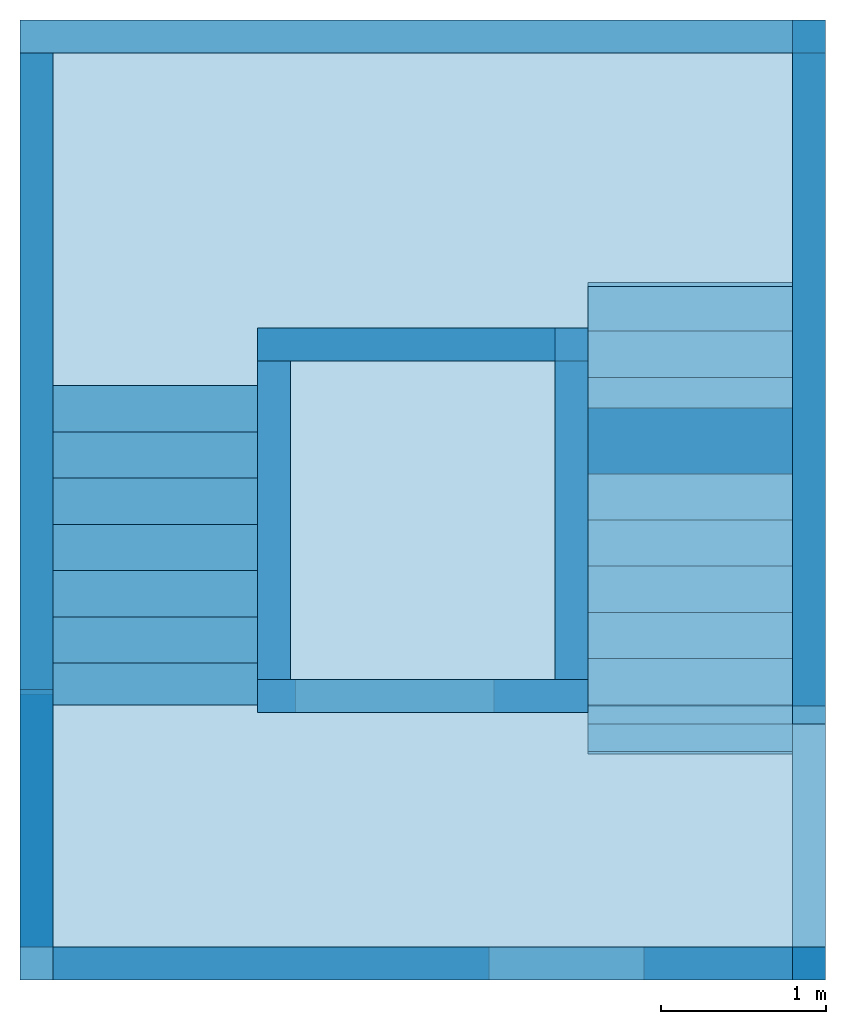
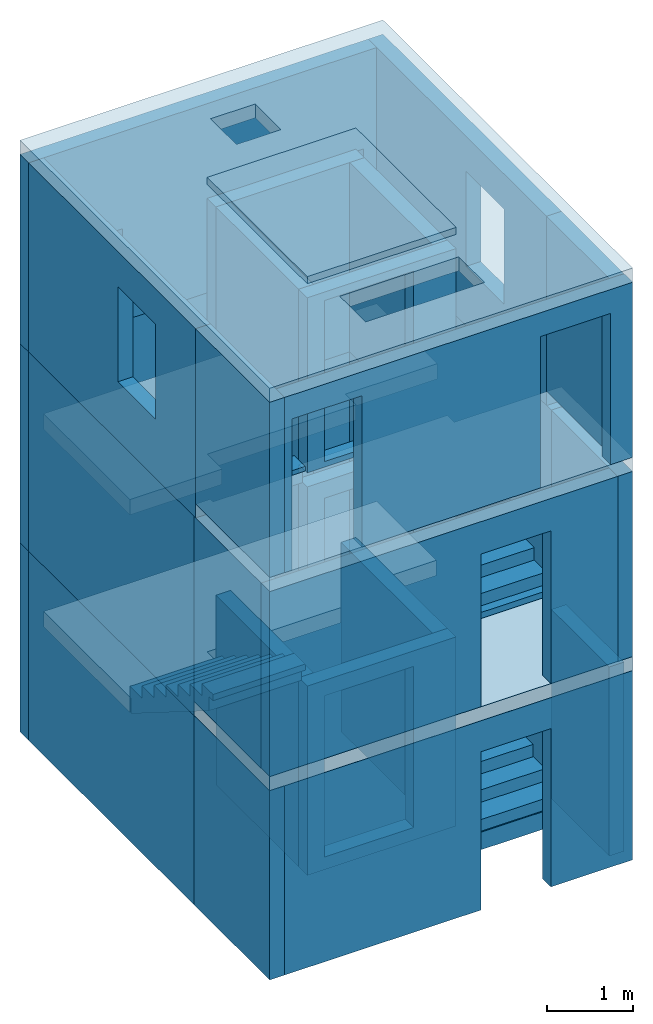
# One storey: 34 walls, 6 slabs, 16 openings.
"""IFC2X3 building model written with IfcOpenShell, lengths in metres."""

import ifcopenshell
import ifcopenshell.guid

model = None  # the IFC model being written
_history = None  # IfcOwnerHistory: only IFC2X3 demands one
_inside = {}  # id of a spatial element -> (the spatial element, [elements in it])
_under = {}  # id of a project, library or spatial element -> (it, [spatial elements below it])
_declared = {}  # id of a project -> (the project, [libraries it declares])
_typed = {}  # id of a type object -> (the type object, [elements of that type])
_made_of = {}  # id of a material, layer set ... -> (it, [elements and type objects made of it])


def new_model(schema):
    """Start an empty IFC model of exactly this schema.

    Asked for "IFC4X3", IfcOpenShell would pick the latest addendum, in which some entities
    have other attributes; the version numbers below select the first issue.
    IFC2X3 requires an IfcOwnerHistory on every rooted entity: one is made here for all.
    """
    global model, _history
    if schema == "IFC4X3":
        model = ifcopenshell.file(schema_version=(4, 3, 0, 0))
    else:
        model = ifcopenshell.file(schema=schema)
    _inside.clear()
    _under.clear()
    _declared.clear()
    _typed.clear()
    _made_of.clear()
    _history = None
    if model.schema == "IFC2X3":
        org = make("IfcOrganization", Name="unknown")
        user = make(
            "IfcPersonAndOrganization",
            ThePerson=make("IfcPerson", FamilyName="unknown"),
            TheOrganization=org,
        )
        app = make(
            "IfcApplication",
            ApplicationDeveloper=org,
            Version="unknown",
            ApplicationFullName="unknown",
            ApplicationIdentifier="unknown",
        )
        _history = make(
            "IfcOwnerHistory",
            OwningUser=user,
            OwningApplication=app,
            ChangeAction="ADDED",
            CreationDate=0,
        )
    return model


def make(cls, **values):
    """One entity of the class cls with the attributes given. An attribute that is None is left unset."""
    return model.create_entity(
        cls, **{name: value for name, value in values.items() if value is not None}
    )


def entity(cls, *values):
    """Any entity or typed value of the class cls, its attributes in the order of the schema. None: left unset."""
    e = model.create_entity(cls)
    for i, value in enumerate(values):
        if value is not None:
            e[i] = value
    return e


def rooted(cls, **values):
    """An entity with a GlobalId (a new one), such as an element, a storey or a relation."""
    return make(cls, GlobalId=ifcopenshell.guid.new(), OwnerHistory=_history, **values)


def si_unit(unit_type, name, prefix=None):
    """IfcSIUnit, for example si_unit("LENGTHUNIT", "METRE", prefix="MILLI")."""
    return make("IfcSIUnit", UnitType=unit_type, Prefix=prefix, Name=name)


def converted_unit(unit_type, name, factor, base, dimensions=None, offset=None):
    """IfcConversionBasedUnit, such as the inch: factor (a typed value) times the base unit."""
    return make(
        "IfcConversionBasedUnit"
        if offset is None
        else "IfcConversionBasedUnitWithOffset",
        ConversionOffset=offset,
        Dimensions=None
        if dimensions is None
        else entity("IfcDimensionalExponents", *dimensions),
        UnitType=unit_type,
        Name=name,
        ConversionFactor=make(
            "IfcMeasureWithUnit", ValueComponent=factor, UnitComponent=base
        ),
    )


def derived_unit(unit_type, elements):
    """IfcDerivedUnit: a product of units, each with its exponent."""
    return make(
        "IfcDerivedUnit",
        Elements=[
            make("IfcDerivedUnitElement", Unit=unit, Exponent=power)
            for unit, power in elements
        ],
        UnitType=unit_type,
    )


def assignment(units):
    """IfcUnitAssignment: the units of a project."""
    return None if units is None else make("IfcUnitAssignment", Units=units)


def point(xyz):
    """IfcCartesianPoint."""
    return None if xyz is None else make("IfcCartesianPoint", Coordinates=xyz)


def direction(xyz):
    """IfcDirection."""
    return None if xyz is None else make("IfcDirection", DirectionRatios=xyz)


def frame(location, z_axis=None, x_axis=None):
    """IfcAxis2Placement3D, a coordinate frame: its origin and axes. An axis left out is left unset."""
    return make(
        "IfcAxis2Placement3D",
        Location=point(location),
        Axis=direction(z_axis),
        RefDirection=direction(x_axis),
    )


def frame_2d(location, x_axis=None):
    """IfcAxis2Placement2D, a coordinate frame in the plane: its origin and x axis."""
    return make(
        "IfcAxis2Placement2D", Location=point(location), RefDirection=direction(x_axis)
    )


def origin():
    """The frame at (0, 0, 0) with its axes left unset."""
    return frame((0.0, 0.0, 0.0))


def origin_with_axes():
    """The frame at (0, 0, 0) with the z axis (0, 0, 1) and the x axis (1, 0, 0) written out."""
    return frame((0.0, 0.0, 0.0), z_axis=(0.0, 0.0, 1.0), x_axis=(1.0, 0.0, 0.0))


def place(relative_to, where):
    """IfcLocalPlacement: puts the frame where relative to a parent placement (None: the world)."""
    return make(
        "IfcLocalPlacement", PlacementRelTo=relative_to, RelativePlacement=where
    )


def context(
    kind, dimensions, precision=None, world=None, true_north=None, identifier=None
):
    """IfcGeometricRepresentationContext, for example the 3D "Model" context."""
    return make(
        "IfcGeometricRepresentationContext",
        ContextIdentifier=identifier,
        ContextType=kind,
        CoordinateSpaceDimension=dimensions,
        Precision=precision,
        WorldCoordinateSystem=world,
        TrueNorth=true_north,
    )


def subcontext(parent, identifier, kind, view, scale=None):
    """IfcGeometricRepresentationSubContext, for example "Body" below "Model"."""
    return make(
        "IfcGeometricRepresentationSubContext",
        ContextIdentifier=identifier,
        ContextType=kind,
        ParentContext=parent,
        TargetScale=scale,
        TargetView=view,
    )


def project(units=None, contexts=None):
    """IfcProject with its units and contexts."""
    return rooted(
        "IfcProject",
        Name="project",
        RepresentationContexts=contexts,
        UnitsInContext=assignment(units),
    )


def spatial(cls, under=None, at=None, **own):
    """A site, building, storey or space (cls), placed at a placement, below another one or the project."""
    s = rooted(cls, ObjectPlacement=at, **own)
    if under is not None:
        _under.setdefault(under.id(), (under, []))[1].append(s)
    return s


def polyline(points):
    """IfcPolyline through the points."""
    return make("IfcPolyline", Points=[point(p) for p in points])


def profile(cls, at=None, kind="AREA", **sizes):
    """A parametric profile (cls). Its sizes go by their IFC names, for example OverallWidth=200.0."""
    return make(cls, ProfileType=kind, Position=at, **sizes)


def rectangle(**sizes):
    """IfcRectangleProfileDef."""
    return profile("IfcRectangleProfileDef", **sizes)


def outline(outer, holes=None, kind="AREA"):
    """IfcArbitraryClosedProfileDef: a profile drawn as a closed curve; with holes, ...WithVoids."""
    if holes is None:
        return make("IfcArbitraryClosedProfileDef", ProfileType=kind, OuterCurve=outer)
    return make(
        "IfcArbitraryProfileDefWithVoids",
        ProfileType=kind,
        OuterCurve=outer,
        InnerCurves=holes,
    )


def extrude(swept, where, along, depth):
    """IfcExtrudedAreaSolid: the profile swept, set in the frame where, extruded along a direction by depth."""
    return make(
        "IfcExtrudedAreaSolid",
        SweptArea=swept,
        Position=where,
        ExtrudedDirection=direction(along),
        Depth=depth,
    )


def shape(context_of_items, identifier, shape_type, items):
    """IfcShapeRepresentation: the items that make up one representation, for example the "Body"."""
    return make(
        "IfcShapeRepresentation",
        ContextOfItems=context_of_items,
        RepresentationIdentifier=identifier,
        RepresentationType=shape_type,
        Items=items,
    )


def material(Name=None, Category=None):
    """IfcMaterial."""
    return make("IfcMaterial", Name=Name, Category=Category)


def layer(
    of_material, thickness, ventilated=None, Name=None, Category=None, Priority=None
):
    """IfcMaterialLayer: one layer of a wall or slab, of a material (None: an air gap)."""
    return make(
        "IfcMaterialLayer",
        Material=of_material,
        LayerThickness=thickness,
        IsVentilated=ventilated,
        Name=Name,
        Category=Category,
        Priority=Priority,
    )


def layer_set(layers, Name=None):
    """IfcMaterialLayerSet."""
    return make("IfcMaterialLayerSet", MaterialLayers=layers, LayerSetName=Name)


def layer_usage(for_layer_set, set_direction, sense, offset, extent=None):
    """IfcMaterialLayerSetUsage: how a layer set lies in its element."""
    return make(
        "IfcMaterialLayerSetUsage",
        ForLayerSet=for_layer_set,
        LayerSetDirection=set_direction,
        DirectionSense=sense,
        OffsetFromReferenceLine=offset,
        ReferenceExtent=extent,
    )


def made_of(thing, what):
    """Note that an element or type object is made of a material, layer set ...; save() writes the relation."""
    if what is not None:
        _made_of.setdefault(what.id(), (what, []))[1].append(thing)
    return thing


def element(
    cls,
    number,
    at=None,
    inside=None,
    cuts=None,
    type_object=None,
    material=None,
    context=None,
    identifier="Body",
    shape_type=None,
    held_by="IfcProductDefinitionShape",
    body=None,
    shapes=None,
    **own,
):
    """One element of the class cls, such as IfcWall. Its Tag is "e" and its number.

    at: its placement. inside: the storey or other place that contains it. cuts: it is an
    opening in that element (IfcRelVoidsElement). A single representation is given by context,
    identifier, shape_type and body (its items); several are given by shapes. held_by: the class
    of the entity that holds the representations. save() writes the other relations.
    """
    e = rooted(cls, Tag="e%d" % number, ObjectPlacement=at, **own)
    if body is not None:
        shapes = [shape(context, identifier, shape_type, body)]
    if shapes is not None:
        e.Representation = make(held_by, Representations=shapes)
    if inside is not None:
        _inside.setdefault(inside.id(), (inside, []))[1].append(e)
    if cuts is not None:
        rooted(
            "IfcRelVoidsElement", RelatingBuildingElement=cuts, RelatedOpeningElement=e
        )
    if type_object is not None:
        _typed.setdefault(type_object.id(), (type_object, []))[1].append(e)
    return made_of(e, material)


def aggregate(whole, parts):
    """IfcRelAggregates: a whole, such as a stair, and the parts it consists of."""
    return rooted("IfcRelAggregates", RelatingObject=whole, RelatedObjects=parts)


def save(model, path):
    """Write the relations noted so far, then the file.

    IfcRelAggregates (storeys below a building ...), IfcRelContainedInSpatialStructure (elements
    in a storey), IfcRelDefinesByType, IfcRelAssociatesMaterial and IfcRelDeclares: one each for
    every whole, place, type object, material and project.
    """
    for whole, parts in _under.values():
        aggregate(whole, parts)
    for where, things in _inside.values():
        rooted(
            "IfcRelContainedInSpatialStructure",
            RelatedElements=things,
            RelatingStructure=where,
        )
    for kind, things in _typed.values():
        rooted("IfcRelDefinesByType", RelatedObjects=things, RelatingType=kind)
    for what, things in _made_of.values():
        rooted("IfcRelAssociatesMaterial", RelatedObjects=things, RelatingMaterial=what)
    for by, libraries in _declared.values():
        rooted("IfcRelDeclares", RelatingContext=by, RelatedDefinitions=libraries)
    model.write(path)


model = new_model("IFC2X3")

# Units and contexts
model_context = context("Model", 3, precision=1e-05, world=origin(), true_north=direction((0.772621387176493, -0.634867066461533)))
body_context = subcontext(model_context, "Body", "Model", "MODEL_VIEW")
ifc_project = project(units=[si_unit("LENGTHUNIT", "METRE"), si_unit("AREAUNIT", "SQUARE_METRE"), si_unit("VOLUMEUNIT", "CUBIC_METRE"), si_unit("MASSUNIT", "GRAM", prefix="KILO"), converted_unit("PLANEANGLEUNIT", "DEGREE", entity("IfcPlaneAngleMeasure", 0.0174532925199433), si_unit("PLANEANGLEUNIT", "RADIAN"), dimensions=[0, 0, 0, 0, 0, 0, 0]), derived_unit("THERMALTRANSMITTANCEUNIT", [(si_unit("POWERUNIT", "WATT"), 1), (si_unit("THERMODYNAMICTEMPERATUREUNIT", "KELVIN"), -1), (si_unit("LENGTHUNIT", "METRE"), -2)]), derived_unit("VOLUMETRICFLOWRATEUNIT", [(si_unit("LENGTHUNIT", "METRE"), 3), (converted_unit("TIMEUNIT", "hour", entity("IfcTimeMeasure", 3600.0), si_unit("TIMEUNIT", "SECOND"), dimensions=[0, 0, 1, 0, 0, 0, 0]), -1), (si_unit("LENGTHUNIT", "METRE"), -1)])], contexts=[model_context])

# Site, building, storey
site_placement = place(None, origin())
site = spatial("IfcSite", under=ifc_project, at=site_placement, Name="Überbauung", CompositionType="ELEMENT")
building_placement = place(site_placement, origin())
building = spatial("IfcBuilding", under=site, at=building_placement, Name="F", CompositionType="ELEMENT")
storey_placement = place(building_placement, origin())
storey = spatial("IfcBuildingStorey", under=building, at=storey_placement, Name="Fundation & Aushub", CompositionType="ELEMENT", Elevation=0.0)

# Slabs
ifc_material_1 = material(Name="Béton")
slab_1_placement = place(storey_placement, frame((11.4517697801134, 7.69350369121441, 8.14)))
element("IfcSlab", 1, at=slab_1_placement, inside=storey, material=ifc_material_1, PredefinedType="FLOOR", context=body_context, shape_type="SweptSolid", body=[
    extrude(rectangle(XDim=2.33, YDim=2.0, at=frame_2d((1.0, -1.165), x_axis=(0.0, -1.0))), frame((0.0, 2.33, 0.0), z_axis=(0.0, 0.0, 1.0), x_axis=(1.0, 0.0, 0.0)), (0.0, 0.0, 1.0), 0.199999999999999),
])
ifc_material_2 = material(Name="Béton")
slab_2_placement = place(storey_placement, frame((10.0117697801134, 6.07350369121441, 8.04)))
element("IfcSlab", 2, at=slab_2_placement, inside=storey, material=ifc_material_2, PredefinedType="FLOOR", context=body_context, shape_type="SweptSolid", body=[
    extrude(outline(polyline([(2.44, 2.96875), (-2.44, 2.96875), (-2.44, -2.84625), (2.44, -2.84625), (2.44, 2.96875)]), holes=[polyline([(-1.0, 1.10375), (0.999999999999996, 1.10375), (0.999999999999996, -1.22625), (-1.0, -1.22625), (-1.0, 1.10375)]), polyline([(0.799999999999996, -2.23625), (-0.800000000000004, -2.23625), (-0.800000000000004, -1.63625), (0.799999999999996, -1.63625), (0.799999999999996, -2.23625)]), polyline([(-0.300000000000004, 1.63625), (-0.300000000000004, 2.23625), (0.299999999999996, 2.23625), (0.299999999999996, 1.63625), (-0.300000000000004, 1.63625)])]), frame((2.44, 2.84625, 0.0), z_axis=(0.0, 0.0, 1.0), x_axis=(1.0, 0.0, 0.0)), (0.0, 0.0, 1.0), 0.200000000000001),
    extrude(outline(polyline([(1.0, 1.165), (-0.999999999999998, 1.165), (-0.999999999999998, -1.165), (1.0, -1.165), (1.0, 1.165)]), holes=[polyline([(0.800000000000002, -0.965000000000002), (-0.799999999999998, -0.965000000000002), (-0.799999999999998, 0.964999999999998), (0.800000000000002, 0.964999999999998), (0.800000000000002, -0.965000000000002)])]), frame((2.44, 2.785, 0.0), z_axis=(0.0, 0.0, 1.0), x_axis=(1.0, 0.0, 0.0)), (0.0, 0.0, 1.0), 0.100000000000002),
])
ifc_material_3 = material(Name="Béton")
slab_3_placement = place(storey_placement, frame((10.2117697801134, 9.67350369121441, 1.375)))
element("IfcSlab", 3, at=slab_3_placement, inside=storey, material=ifc_material_3, PredefinedType="FLOOR", context=body_context, shape_type="SweptSolid", body=[
    extrude(outline(polyline([(-0.999999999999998, -0.397172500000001), (1.0, -0.397172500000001), (1.0, -0.1234825), (2.24, -0.1234825), (2.24, 1.2678275), (-2.24, 1.2678275), (-2.24, -0.747172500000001), (-0.999999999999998, -0.747172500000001), (-0.999999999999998, -0.397172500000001)])), frame((2.24, 0.747172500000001, 0.0), z_axis=(0.0, 0.0, 1.0), x_axis=(1.0, 0.0, 0.0)), (0.0, 0.0, 1.0), 0.22),
])
ifc_material_4 = material(Name="Béton")
slab_4_placement = place(storey_placement, frame((10.2117697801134, 9.67350369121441, 4.185)))
element("IfcSlab", 4, at=slab_4_placement, inside=storey, material=ifc_material_4, PredefinedType="FLOOR", context=body_context, shape_type="SweptSolid", body=[
    extrude(outline(polyline([(-0.999999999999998, -0.39125), (1.0, -0.39125), (1.0, -0.14125), (2.24, -0.14125), (2.24, 1.27375), (-2.24, 1.27375), (-2.24, -0.74125), (-0.999999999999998, -0.74125), (-0.999999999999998, -0.39125)])), frame((2.24, 0.74125, 0.0), z_axis=(0.0, 0.0, 1.0), x_axis=(1.0, 0.0, 0.0)), (0.0, 0.0, 1.0), 0.22),
])
ifc_material_5 = material(Name="Béton")
slab_5_placement = place(storey_placement, frame((10.0117697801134, 6.07350369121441, 5.35)))
element("IfcSlab", 5, at=slab_5_placement, inside=storey, material=ifc_material_5, PredefinedType="FLOOR", context=body_context, shape_type="SweptSolid", body=[
    extrude(outline(polyline([(-1.792, 0.352231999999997), (-1.992, 0.352231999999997), (-1.992, -1.374308), (2.888, -1.374308), (2.888, 0.285691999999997), (1.448, 0.285691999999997), (1.448, 0.445691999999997), (-0.551999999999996, 0.445691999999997), (-0.551999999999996, 0.290691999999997), (-1.792, 0.290691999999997), (-1.792, 0.352231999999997)])), frame((1.992, 1.374308, 0.0), z_axis=(0.0, 0.0, 1.0), x_axis=(1.0, 0.0, 0.0)), (0.0, 0.0, 1.0), 0.2),
])
ifc_material_6 = material(Name="Béton")
slab_6_placement = place(storey_placement, frame((10.0117697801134, 6.07350369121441, 2.52)))
element("IfcSlab", 6, at=slab_6_placement, inside=storey, material=ifc_material_6, PredefinedType="FLOOR", context=body_context, shape_type="SweptSolid", body=[
    extrude(outline(polyline([(1.448, 0.301330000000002), (-0.551999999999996, 0.301330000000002), (-0.551999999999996, 0.346330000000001), (-1.792, 0.346330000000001), (-1.792, 0.439680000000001), (-1.992, 0.439680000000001), (-1.992, -1.31867), (2.888, -1.31867), (2.888, 0.231330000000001), (1.448, 0.231330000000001), (1.448, 0.301330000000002)])), frame((1.992, 1.31867, 0.0), z_axis=(0.0, 0.0, 1.0), x_axis=(1.0, 0.0, 0.0)), (0.0, 0.0, 1.0), 0.2),
])

# Walls
ifc_material_7 = material(Name="Béton")
ifc_layer_1 = layer(ifc_material_7, 0.2)
ifc_layer_set_1 = layer_set([ifc_layer_1])
ifc_layer_usage_1 = layer_usage(ifc_layer_set_1, "AXIS2", "POSITIVE", 0.0)
wall_1_placement = place(storey_placement, frame((10.0117697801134, 7.83185369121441, -0.17), z_axis=(0.0, 0.0, 1.0), x_axis=(0.0, -1.0, 0.0)))
element("IfcWallStandardCase", 7, at=wall_1_placement, inside=storey, material=ifc_layer_usage_1, context=body_context, shape_type="SweptSolid", body=[
    extrude(rectangle(XDim=1.75835, YDim=0.2, at=frame_2d((0.879175, 0.1), x_axis=(1.0, 0.0))), origin_with_axes(), (0.0, 0.0, 1.0), 2.69),
])
ifc_material_8 = material(Name="Béton")
ifc_layer_2 = layer(ifc_material_8, 0.2)
ifc_layer_set_2 = layer_set([ifc_layer_2])
ifc_layer_usage_2 = layer_usage(ifc_layer_set_2, "AXIS2", "POSITIVE", 0.0)
wall_2_placement = place(storey_placement, frame((10.0117697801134, 11.6885036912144, -0.17), z_axis=(0.0, 0.0, 1.0), x_axis=(0.0, -1.0, 0.0)))
element("IfcWallStandardCase", 8, at=wall_2_placement, inside=storey, material=ifc_layer_usage_2, context=body_context, shape_type="SweptSolid", body=[
    extrude(rectangle(XDim=3.85665, YDim=0.2, at=frame_2d((1.928325, 0.1), x_axis=(1.0, 0.0))), origin_with_axes(), (0.0, 0.0, 1.0), 2.69),
])

# Wall, opening
ifc_material_9 = material(Name="Béton")
ifc_layer_3 = layer(ifc_material_9, 0.2)
ifc_layer_set_3 = layer_set([ifc_layer_3])
ifc_layer_usage_3 = layer_usage(ifc_layer_set_3, "AXIS2", "POSITIVE", 0.0)
wall_3_placement = place(storey_placement, frame((10.2117697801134, 6.07350369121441, -0.17)))
wall_3 = element("IfcWallStandardCase", 9, at=wall_3_placement, inside=storey, material=ifc_layer_usage_3, context=body_context, shape_type="SweptSolid", body=[
    extrude(rectangle(XDim=4.68, YDim=0.2, at=frame_2d((2.34, 0.1), x_axis=(1.0, 0.0))), origin_with_axes(), (0.0, 0.0, 1.0), 2.69),
])
opening_1_placement = place(wall_3_placement, frame((2.64, 0.0, 0.0), z_axis=(0.0, 1.0, 0.0), x_axis=(0.0, 0.0, 1.0)))
element("IfcOpeningElement", 10, at=opening_1_placement, cuts=wall_3, Name="Türöffnung", ObjectType="Opening", context=body_context, shape_type="SweptSolid", body=[
    extrude(outline(polyline([(2.25, 0.94), (2.25, 0.0), (0.0, 0.0), (0.0, 0.94), (2.25, 0.94)])), origin_with_axes(), (0.0, 0.0, 1.0), 0.2),
])

# Walls
ifc_material_10 = material(Name="Béton")
ifc_layer_4 = layer(ifc_material_10, 0.2)
ifc_layer_set_4 = layer_set([ifc_layer_4])
ifc_layer_usage_4 = layer_usage(ifc_layer_set_4, "AXIS2", "POSITIVE", 0.0)
wall_4_placement = place(storey_placement, frame((14.8917697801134, 7.62350369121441, -0.17), z_axis=(0.0, 0.0, 1.0), x_axis=(0.0, 1.0, 0.0)))
element("IfcWallStandardCase", 11, at=wall_4_placement, inside=storey, material=ifc_layer_usage_4, context=body_context, shape_type="SweptSolid", body=[
    extrude(rectangle(XDim=4.065, YDim=0.2, at=frame_2d((2.0325, 0.1), x_axis=(1.0, 0.0))), origin_with_axes(), (0.0, 0.0, 1.0), 2.69),
])
ifc_material_11 = material(Name="Béton")
ifc_layer_5 = layer(ifc_material_11, 0.2)
ifc_layer_set_5 = layer_set([ifc_layer_5])
ifc_layer_usage_5 = layer_usage(ifc_layer_set_5, "AXIS2", "POSITIVE", 0.0)
wall_5_placement = place(storey_placement, frame((14.8917697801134, 6.27350369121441, -0.17), z_axis=(0.0, 0.0, 1.0), x_axis=(0.0, 1.0, 0.0)))
element("IfcWallStandardCase", 12, at=wall_5_placement, inside=storey, material=ifc_layer_usage_5, context=body_context, shape_type="SweptSolid", body=[
    extrude(rectangle(XDim=1.35, YDim=0.2, at=frame_2d((0.675, 0.1), x_axis=(1.0, 0.0))), origin_with_axes(), (0.0, 0.0, 1.0), 2.69),
])

# Wall, openings
ifc_material_12 = material(Name="Béton")
ifc_layer_6 = layer(ifc_material_12, 0.2)
ifc_layer_set_6 = layer_set([ifc_layer_6])
ifc_layer_usage_6 = layer_usage(ifc_layer_set_6, "AXIS2", "POSITIVE", 0.0)
wall_6_placement = place(storey_placement, frame((10.0117697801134, 11.6885036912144, -0.17)))
wall_6 = element("IfcWallStandardCase", 13, at=wall_6_placement, inside=storey, material=ifc_layer_usage_6, context=body_context, shape_type="SweptSolid", body=[
    extrude(rectangle(XDim=4.88, YDim=0.2, at=frame_2d((2.44, 0.1), x_axis=(1.0, 0.0))), origin_with_axes(), (0.0, 0.0, 1.0), 2.69),
])
opening_2_placement = place(wall_6_placement, frame((3.62, 0.0, 0.0), z_axis=(0.0, 1.0, 0.0), x_axis=(0.0, 0.0, 1.0)))
element("IfcOpeningElement", 14, at=opening_2_placement, cuts=wall_6, Name="Türöffnung", ObjectType="Opening", context=body_context, shape_type="SweptSolid", body=[
    extrude(outline(polyline([(1.3, 0.88), (1.3, 0.0), (0.0, 0.0), (0.0, 0.88), (1.3, 0.88)])), origin_with_axes(), (0.0, 0.0, 1.0), 0.2),
])
opening_3_placement = place(wall_6_placement, frame((1.805, 0.0, 0.0), z_axis=(0.0, 1.0, 0.0), x_axis=(0.0, 0.0, 1.0)))
element("IfcOpeningElement", 15, at=opening_3_placement, cuts=wall_6, Name="Türöffnung", ObjectType="Opening", context=body_context, shape_type="SweptSolid", body=[
    extrude(outline(polyline([(1.33, 1.27), (1.33, 0.0), (0.0, 0.0), (0.0, 1.27), (1.33, 1.27)])), origin_with_axes(), (0.0, 0.0, 1.0), 0.2),
])

# Walls
ifc_material_13 = material(Name="Béton")
ifc_layer_7 = layer(ifc_material_13, 0.2)
ifc_layer_set_7 = layer_set([ifc_layer_7])
ifc_layer_usage_7 = layer_usage(ifc_layer_set_7, "AXIS2", "POSITIVE", 0.0)
wall_7_placement = place(storey_placement, frame((11.4517697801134, 9.82350369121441, -0.17), z_axis=(0.0, 0.0, 1.0), x_axis=(0.0, -1.0, 0.0)))
element("IfcWallStandardCase", 16, at=wall_7_placement, inside=storey, material=ifc_layer_usage_7, context=body_context, shape_type="SweptSolid", body=[
    extrude(rectangle(XDim=1.93, YDim=0.2, at=frame_2d((0.965, 0.1), x_axis=(1.0, 0.0))), origin_with_axes(), (0.0, 0.0, 1.0), 2.69),
])
ifc_material_14 = material(Name="Béton")
ifc_layer_8 = layer(ifc_material_14, 0.2)
ifc_layer_set_8 = layer_set([ifc_layer_8])
ifc_layer_usage_8 = layer_usage(ifc_layer_set_8, "AXIS2", "POSITIVE", 0.0)
wall_8_placement = place(storey_placement, frame((13.4517697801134, 7.89350369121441, -0.17), z_axis=(0.0, 0.0, 1.0), x_axis=(0.0, 1.0, 0.0)))
element("IfcWallStandardCase", 17, at=wall_8_placement, inside=storey, material=ifc_layer_usage_8, context=body_context, shape_type="SweptSolid", body=[
    extrude(rectangle(XDim=2.13, YDim=0.2, at=frame_2d((1.065, 0.1), x_axis=(1.0, 0.0))), origin_with_axes(), (0.0, 0.0, 1.0), 2.69),
])

# Wall, opening
ifc_material_15 = material(Name="Béton")
ifc_layer_9 = layer(ifc_material_15, 0.2)
ifc_layer_set_9 = layer_set([ifc_layer_9])
ifc_layer_usage_9 = layer_usage(ifc_layer_set_9, "AXIS2", "POSITIVE", 0.0)
wall_9_placement = place(storey_placement, frame((11.4517697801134, 7.69350369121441, -0.17)))
wall_9 = element("IfcWallStandardCase", 18, at=wall_9_placement, inside=storey, material=ifc_layer_usage_9, context=body_context, shape_type="SweptSolid", body=[
    extrude(rectangle(XDim=2.0, YDim=0.2, at=frame_2d((1.0, 0.1), x_axis=(1.0, 0.0))), origin_with_axes(), (0.0, 0.0, 1.0), 2.69),
])
opening_4_placement = place(wall_9_placement, frame((0.23, 0.0, 0.18), z_axis=(0.0, 1.0, 0.0), x_axis=(0.0, 0.0, 1.0)))
element("IfcOpeningElement", 19, at=opening_4_placement, cuts=wall_9, Name="Türöffnung", ObjectType="Opening", context=body_context, shape_type="SweptSolid", body=[
    extrude(outline(polyline([(2.29, 1.2), (2.29, 0.0), (0.0, 0.0), (0.0, 1.2), (2.29, 1.2)])), origin_with_axes(), (0.0, 0.0, 1.0), 0.2),
])

ifc_material_16 = material(Name="Béton")
ifc_layer_10 = layer(ifc_material_16, 0.2)
ifc_layer_set_10 = layer_set([ifc_layer_10])
ifc_layer_usage_10 = layer_usage(ifc_layer_set_10, "AXIS2", "POSITIVE", 0.0)
wall_10_placement = place(storey_placement, frame((13.2517697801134, 10.0235036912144, -0.17), z_axis=(0.0, 0.0, 1.0), x_axis=(-1.0, 0.0, 0.0)))
wall_10 = element("IfcWallStandardCase", 20, at=wall_10_placement, inside=storey, material=ifc_layer_usage_10, context=body_context, shape_type="SweptSolid", body=[
    extrude(rectangle(XDim=1.8, YDim=0.2, at=frame_2d((0.9, 0.1), x_axis=(1.0, 0.0))), origin_with_axes(), (0.0, 0.0, 1.0), 2.69),
])
opening_5_placement = place(wall_10_placement, frame((0.37, 0.0, 0.0), z_axis=(0.0, 1.0, 0.0), x_axis=(0.0, 0.0, 1.0)))
element("IfcOpeningElement", 21, at=opening_5_placement, cuts=wall_10, Name="Türöffnung", ObjectType="Opening", context=body_context, shape_type="SweptSolid", body=[
    extrude(outline(polyline([(1.38, 1.2), (1.38, 0.0), (0.0, 0.0), (0.0, 1.2), (1.38, 1.2)])), origin_with_axes(), (0.0, 0.0, 1.0), 0.2),
])

ifc_material_17 = material(Name="Béton")
ifc_layer_11 = layer(ifc_material_17, 0.2)
ifc_layer_set_11 = layer_set([ifc_layer_11])
ifc_layer_usage_11 = layer_usage(ifc_layer_set_11, "AXIS2", "POSITIVE", 0.0)
wall_11_placement = place(storey_placement, frame((11.4517697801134, 7.69350369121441, 2.52)))
wall_11 = element("IfcWallStandardCase", 22, at=wall_11_placement, inside=storey, material=ifc_layer_usage_11, context=body_context, shape_type="SweptSolid", body=[
    extrude(rectangle(XDim=2.0, YDim=0.2, at=frame_2d((1.0, 0.1), x_axis=(1.0, 0.0))), origin_with_axes(), (0.0, 0.0, 1.0), 2.83),
])
opening_6_placement = place(wall_11_placement, frame((0.23, 0.0, 0.3), z_axis=(0.0, 1.0, 0.0), x_axis=(0.0, 0.0, 1.0)))
element("IfcOpeningElement", 23, at=opening_6_placement, cuts=wall_11, Name="Türöffnung", ObjectType="Opening", context=body_context, shape_type="SweptSolid", body=[
    extrude(outline(polyline([(2.29, 1.2), (2.29, 0.0), (0.0, 0.0), (0.0, 1.2), (2.29, 1.2)])), origin_with_axes(), (0.0, 0.0, 1.0), 0.2),
])

# Wall, openings
ifc_material_18 = material(Name="Béton")
ifc_layer_12 = layer(ifc_material_18, 0.2)
ifc_layer_set_12 = layer_set([ifc_layer_12])
ifc_layer_usage_12 = layer_usage(ifc_layer_set_12, "AXIS2", "POSITIVE", 0.0)
wall_12_placement = place(storey_placement, frame((14.8917697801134, 11.8885036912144, 2.52), z_axis=(0.0, 0.0, 1.0), x_axis=(-1.0, 0.0, 0.0)))
wall_12 = element("IfcWallStandardCase", 24, at=wall_12_placement, inside=storey, material=ifc_layer_usage_12, context=body_context, shape_type="SweptSolid", body=[
    extrude(rectangle(XDim=4.88, YDim=0.2, at=frame_2d((2.44, 0.1), x_axis=(1.0, 0.0))), origin_with_axes(), (0.0, 0.0, 1.0), 2.83),
])
opening_7_placement = place(wall_12_placement, frame((3.62, 0.0, 0.0), z_axis=(0.0, 1.0, 0.0), x_axis=(0.0, 0.0, 1.0)))
element("IfcOpeningElement", 25, at=opening_7_placement, cuts=wall_12, Name="Türöffnung", ObjectType="Opening", context=body_context, shape_type="SweptSolid", body=[
    extrude(outline(polyline([(1.33, 0.88), (1.33, 0.0), (0.0, 0.0), (0.0, 0.88), (1.33, 0.88)])), origin_with_axes(), (0.0, 0.0, 1.0), 0.2),
])
opening_8_placement = place(wall_12_placement, frame((0.38, 0.0, 0.0), z_axis=(0.0, 1.0, 0.0), x_axis=(0.0, 0.0, 1.0)))
element("IfcOpeningElement", 26, at=opening_8_placement, cuts=wall_12, Name="Türöffnung", ObjectType="Opening", context=body_context, shape_type="SweptSolid", body=[
    extrude(outline(polyline([(1.33, 0.88), (1.33, 0.0), (0.0, 0.0), (0.0, 0.88), (1.33, 0.88)])), origin_with_axes(), (0.0, 0.0, 1.0), 0.2),
])

# Walls
ifc_material_19 = material(Name="Béton")
ifc_layer_13 = layer(ifc_material_19, 0.2)
ifc_layer_set_13 = layer_set([ifc_layer_13])
ifc_layer_usage_13 = layer_usage(ifc_layer_set_13, "AXIS2", "POSITIVE", 0.0)
wall_13_placement = place(storey_placement, frame((13.4517697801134, 10.0235036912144, 2.52), z_axis=(0.0, 0.0, 1.0), x_axis=(-1.0, 0.0, 0.0)))
element("IfcWallStandardCase", 27, at=wall_13_placement, inside=storey, material=ifc_layer_usage_13, context=body_context, shape_type="SweptSolid", body=[
    extrude(rectangle(XDim=2.0, YDim=0.2, at=frame_2d((1.0, 0.1), x_axis=(1.0, 0.0))), origin_with_axes(), (0.0, 0.0, 1.0), 2.83),
])
ifc_material_20 = material(Name="Béton")
ifc_layer_14 = layer(ifc_material_20, 0.2)
ifc_layer_set_14 = layer_set([ifc_layer_14])
ifc_layer_usage_14 = layer_usage(ifc_layer_set_14, "AXIS2", "POSITIVE", 0.0)
wall_14_placement = place(storey_placement, frame((11.4517697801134, 9.82350369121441, 2.52), z_axis=(0.0, 0.0, 1.0), x_axis=(0.0, -1.0, 0.0)))
element("IfcWallStandardCase", 28, at=wall_14_placement, inside=storey, material=ifc_layer_usage_14, context=body_context, shape_type="SweptSolid", body=[
    extrude(rectangle(XDim=1.93, YDim=0.2, at=frame_2d((0.965, 0.1), x_axis=(1.0, 0.0))), origin_with_axes(), (0.0, 0.0, 1.0), 2.83),
])
ifc_material_21 = material(Name="Béton")
ifc_layer_15 = layer(ifc_material_21, 0.2)
ifc_layer_set_15 = layer_set([ifc_layer_15])
ifc_layer_usage_15 = layer_usage(ifc_layer_set_15, "AXIS2", "POSITIVE", 0.0)
wall_15_placement = place(storey_placement, frame((13.4517697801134, 7.89350369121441, 2.52), z_axis=(0.0, 0.0, 1.0), x_axis=(0.0, 1.0, 0.0)))
element("IfcWallStandardCase", 29, at=wall_15_placement, inside=storey, material=ifc_layer_usage_15, context=body_context, shape_type="SweptSolid", body=[
    extrude(rectangle(XDim=1.93, YDim=0.2, at=frame_2d((0.965, 0.1), x_axis=(1.0, 0.0))), origin_with_axes(), (0.0, 0.0, 1.0), 2.83),
])

# Wall, opening
ifc_material_22 = material(Name="Béton")
ifc_layer_16 = layer(ifc_material_22, 0.2)
ifc_layer_set_16 = layer_set([ifc_layer_16])
ifc_layer_usage_16 = layer_usage(ifc_layer_set_16, "AXIS2", "POSITIVE", 0.0)
wall_16_placement = place(storey_placement, frame((10.0117697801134, 6.07350369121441, 2.72)))
wall_16 = element("IfcWallStandardCase", 30, at=wall_16_placement, inside=storey, material=ifc_layer_usage_16, context=body_context, shape_type="SweptSolid", body=[
    extrude(rectangle(XDim=4.68, YDim=0.2, at=frame_2d((2.34, 0.1), x_axis=(1.0, 0.0))), origin_with_axes(), (0.0, 0.0, 1.0), 2.63),
])
opening_9_placement = place(wall_16_placement, frame((2.84, 0.0, 0.0), z_axis=(0.0, 1.0, 0.0), x_axis=(0.0, 0.0, 1.0)))
element("IfcOpeningElement", 31, at=opening_9_placement, cuts=wall_16, Name="Türöffnung", ObjectType="Opening", context=body_context, shape_type="SweptSolid", body=[
    extrude(outline(polyline([(2.17, 0.94), (2.17, 0.0), (0.0, 0.0), (0.0, 0.94), (2.17, 0.94)])), origin_with_axes(), (0.0, 0.0, 1.0), 0.2),
])

# Walls
ifc_material_23 = material(Name="Béton")
ifc_layer_17 = layer(ifc_material_23, 0.2)
ifc_layer_set_17 = layer_set([ifc_layer_17])
ifc_layer_usage_17 = layer_usage(ifc_layer_set_17, "AXIS2", "POSITIVE", 0.0)
wall_17_placement = place(storey_placement, frame((10.0117697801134, 11.6885036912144, 2.52), z_axis=(0.0, 0.0, 1.0), x_axis=(0.0, -1.0, 0.0)))
element("IfcWallStandardCase", 32, at=wall_17_placement, inside=storey, material=ifc_layer_usage_17, context=body_context, shape_type="SweptSolid", body=[
    extrude(rectangle(XDim=3.85665, YDim=0.2, at=frame_2d((1.928325, 0.1), x_axis=(1.0, 0.0))), origin_with_axes(), (0.0, 0.0, 1.0), 2.83),
])
ifc_material_24 = material(Name="Béton")
ifc_layer_18 = layer(ifc_material_24, 0.2)
ifc_layer_set_18 = layer_set([ifc_layer_18])
ifc_layer_usage_18 = layer_usage(ifc_layer_set_18, "AXIS2", "POSITIVE", 0.0)
wall_18_placement = place(storey_placement, frame((10.0117697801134, 7.83185369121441, 2.72), z_axis=(0.0, 0.0, 1.0), x_axis=(0.0, -1.0, 0.0)))
element("IfcWallStandardCase", 33, at=wall_18_placement, inside=storey, material=ifc_layer_usage_18, context=body_context, shape_type="SweptSolid", body=[
    extrude(rectangle(XDim=1.55835, YDim=0.2, at=frame_2d((0.779175, 0.1), x_axis=(1.0, 0.0))), origin_with_axes(), (0.0, 0.0, 1.0), 2.63),
])
ifc_material_25 = material(Name="Béton")
ifc_layer_19 = layer(ifc_material_25, 0.2)
ifc_layer_set_19 = layer_set([ifc_layer_19])
ifc_layer_usage_19 = layer_usage(ifc_layer_set_19, "AXIS2", "POSITIVE", 0.0)
wall_19_placement = place(storey_placement, frame((14.8917697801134, 7.62350369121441, 2.52), z_axis=(0.0, 0.0, 1.0), x_axis=(0.0, 1.0, 0.0)))
element("IfcWallStandardCase", 34, at=wall_19_placement, inside=storey, material=ifc_layer_usage_19, context=body_context, shape_type="SweptSolid", body=[
    extrude(rectangle(XDim=4.065, YDim=0.2, at=frame_2d((2.0325, 0.1), x_axis=(1.0, 0.0))), origin_with_axes(), (0.0, 0.0, 1.0), 2.83),
])
ifc_material_26 = material(Name="Béton")
ifc_layer_20 = layer(ifc_material_26, 0.2)
ifc_layer_set_20 = layer_set([ifc_layer_20])
ifc_layer_usage_20 = layer_usage(ifc_layer_set_20, "AXIS2", "POSITIVE", 0.0)
wall_20_placement = place(storey_placement, frame((14.8917697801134, 6.07350369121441, 2.72), z_axis=(0.0, 0.0, 1.0), x_axis=(0.0, 1.0, 0.0)))
element("IfcWallStandardCase", 35, at=wall_20_placement, inside=storey, material=ifc_layer_usage_20, context=body_context, shape_type="SweptSolid", body=[
    extrude(rectangle(XDim=1.55, YDim=0.2, at=frame_2d((0.775, 0.1), x_axis=(1.0, 0.0))), origin_with_axes(), (0.0, 0.0, 1.0), 2.63),
])

# Wall, openings
ifc_material_27 = material(Name="Béton")
ifc_layer_21 = layer(ifc_material_27, 0.2)
ifc_layer_set_21 = layer_set([ifc_layer_21])
ifc_layer_usage_21 = layer_usage(ifc_layer_set_21, "AXIS2", "POSITIVE", 0.0)
wall_21_placement = place(storey_placement, frame((10.0117697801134, 11.6885036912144, 5.35)))
wall_21 = element("IfcWallStandardCase", 36, at=wall_21_placement, inside=storey, material=ifc_layer_usage_21, context=body_context, shape_type="SweptSolid", body=[
    extrude(rectangle(XDim=4.68, YDim=0.2, at=frame_2d((2.34, 0.1), x_axis=(1.0, 0.0))), origin_with_axes(), (0.0, 0.0, 1.0), 2.69),
])
opening_10_placement = place(wall_21_placement, frame((0.38, 0.0, 0.0), z_axis=(0.0, 1.0, 0.0), x_axis=(0.0, 0.0, 1.0)))
element("IfcOpeningElement", 37, at=opening_10_placement, cuts=wall_21, Name="Fensteröffnung", ObjectType="Opening", context=body_context, shape_type="SweptSolid", body=[
    extrude(outline(polyline([(1.31, 0.88), (1.31, 0.0), (0.0, 0.0), (0.0, 0.88), (1.31, 0.88)])), origin_with_axes(), (0.0, 0.0, 1.0), 0.2),
])
opening_11_placement = place(wall_21_placement, frame((3.62, 0.0, 0.0), z_axis=(0.0, 1.0, 0.0), x_axis=(0.0, 0.0, 1.0)))
element("IfcOpeningElement", 38, at=opening_11_placement, cuts=wall_21, Name="Fensteröffnung", ObjectType="Opening", context=body_context, shape_type="SweptSolid", body=[
    extrude(outline(polyline([(1.31, 0.88), (1.31, 0.0), (0.0, 0.0), (0.0, 0.88), (1.31, 0.88)])), origin_with_axes(), (0.0, 0.0, 1.0), 0.2),
])

# Walls
ifc_material_28 = material(Name="Béton")
ifc_layer_22 = layer(ifc_material_28, 0.2)
ifc_layer_set_22 = layer_set([ifc_layer_22])
ifc_layer_usage_22 = layer_usage(ifc_layer_set_22, "AXIS2", "POSITIVE", 0.0)
wall_22_placement = place(storey_placement, frame((11.4517697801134, 9.82350369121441, 5.35)))
element("IfcWallStandardCase", 39, at=wall_22_placement, inside=storey, material=ifc_layer_usage_22, context=body_context, shape_type="SweptSolid", body=[
    extrude(rectangle(XDim=2.0, YDim=0.2, at=frame_2d((1.0, 0.1), x_axis=(1.0, 0.0))), origin_with_axes(), (0.0, 0.0, 1.0), 2.69),
])
ifc_material_29 = material(Name="Béton")
ifc_layer_23 = layer(ifc_material_29, 0.2)
ifc_layer_set_23 = layer_set([ifc_layer_23])
ifc_layer_usage_23 = layer_usage(ifc_layer_set_23, "AXIS2", "POSITIVE", 0.0)
wall_23_placement = place(storey_placement, frame((10.0117697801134, 7.80004369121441, 5.55), z_axis=(0.0, 0.0, 1.0), x_axis=(0.0, -1.0, 0.0)))
element("IfcWallStandardCase", 40, at=wall_23_placement, inside=storey, material=ifc_layer_usage_23, context=body_context, shape_type="SweptSolid", body=[
    extrude(rectangle(XDim=1.72654, YDim=0.2, at=frame_2d((0.86327, 0.1), x_axis=(1.0, 0.0))), origin_with_axes(), (0.0, 0.0, 1.0), 2.49),
])

# Wall, openings
ifc_material_30 = material(Name="Béton")
ifc_layer_24 = layer(ifc_material_30, 0.2)
ifc_layer_set_24 = layer_set([ifc_layer_24])
ifc_layer_usage_24 = layer_usage(ifc_layer_set_24, "AXIS2", "POSITIVE", 0.0)
wall_24_placement = place(storey_placement, frame((10.2117697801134, 6.07350369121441, 5.55)))
wall_24 = element("IfcWallStandardCase", 41, at=wall_24_placement, inside=storey, material=ifc_layer_usage_24, context=body_context, shape_type="SweptSolid", body=[
    extrude(rectangle(XDim=4.68, YDim=0.2, at=frame_2d((2.34, 0.1), x_axis=(1.0, 0.0))), origin_with_axes(), (0.0, 0.0, 1.0), 2.49),
])
opening_12_placement = place(wall_24_placement, frame((3.44, 0.0, 0.0), z_axis=(0.0, 1.0, 0.0), x_axis=(0.0, 0.0, 1.0)))
element("IfcOpeningElement", 42, at=opening_12_placement, cuts=wall_24, Name="Türöffnung", ObjectType="Opening", context=body_context, shape_type="SweptSolid", body=[
    extrude(outline(polyline([(2.15, 0.94), (2.15, 0.0), (0.0, 0.0), (0.0, 0.94), (2.15, 0.94)])), origin_with_axes(), (0.0, 0.0, 1.0), 0.2),
])
opening_13_placement = place(wall_24_placement, frame((0.1, 0.0, 0.0), z_axis=(0.0, 1.0, 0.0), x_axis=(0.0, 0.0, 1.0)))
element("IfcOpeningElement", 43, at=opening_13_placement, cuts=wall_24, Name="Türöffnung", ObjectType="Opening", context=body_context, shape_type="SweptSolid", body=[
    extrude(outline(polyline([(2.15, 0.94), (2.15, 0.0), (0.0, 0.0), (0.0, 0.94), (2.15, 0.94)])), origin_with_axes(), (0.0, 0.0, 1.0), 0.2),
])

# Wall
ifc_material_31 = material(Name="Béton")
ifc_layer_25 = layer(ifc_material_31, 0.2)
ifc_layer_set_25 = layer_set([ifc_layer_25])
ifc_layer_usage_25 = layer_usage(ifc_layer_set_25, "AXIS2", "POSITIVE", 0.0)
wall_25_placement = place(storey_placement, frame((14.8917697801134, 6.27350369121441, 5.55), z_axis=(0.0, 0.0, 1.0), x_axis=(0.0, 1.0, 0.0)))
element("IfcWallStandardCase", 44, at=wall_25_placement, inside=storey, material=ifc_layer_usage_25, context=body_context, shape_type="SweptSolid", body=[
    extrude(rectangle(XDim=1.46, YDim=0.2, at=frame_2d((0.73, 0.1), x_axis=(1.0, 0.0))), origin_with_axes(), (0.0, 0.0, 1.0), 2.49),
])

# Wall, opening
ifc_material_32 = material(Name="Béton")
ifc_layer_26 = layer(ifc_material_32, 0.2)
ifc_layer_set_26 = layer_set([ifc_layer_26])
ifc_layer_usage_26 = layer_usage(ifc_layer_set_26, "AXIS2", "POSITIVE", 0.0)
wall_26_placement = place(storey_placement, frame((13.4517697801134, 7.89350369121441, 5.55), z_axis=(0.0, 0.0, 1.0), x_axis=(-1.0, 0.0, 0.0)))
wall_26 = element("IfcWallStandardCase", 45, at=wall_26_placement, inside=storey, material=ifc_layer_usage_26, context=body_context, shape_type="SweptSolid", body=[
    extrude(rectangle(XDim=2.0, YDim=0.2, at=frame_2d((1.0, 0.1), x_axis=(1.0, 0.0))), origin_with_axes(), (0.0, 0.0, 1.0), 2.49),
])
opening_14_placement = place(wall_26_placement, frame((0.57, 0.0, 0.08), z_axis=(0.0, 1.0, 0.0), x_axis=(0.0, 0.0, 1.0)))
element("IfcOpeningElement", 46, at=opening_14_placement, cuts=wall_26, Name="Türöffnung", ObjectType="Opening", context=body_context, shape_type="SweptSolid", body=[
    extrude(outline(polyline([(2.29, 1.2), (2.29, 0.0), (0.0, 0.0), (0.0, 1.2), (2.29, 1.2)])), origin_with_axes(), (0.0, 0.0, 1.0), 0.2),
])

# Walls
ifc_material_33 = material(Name="Béton")
ifc_layer_27 = layer(ifc_material_33, 0.2)
ifc_layer_set_27 = layer_set([ifc_layer_27])
ifc_layer_usage_27 = layer_usage(ifc_layer_set_27, "AXIS2", "POSITIVE", 0.0)
wall_27_placement = place(storey_placement, frame((13.2517697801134, 9.82350369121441, 5.35), z_axis=(0.0, 0.0, 1.0), x_axis=(0.0, -1.0, 0.0)))
element("IfcWallStandardCase", 47, at=wall_27_placement, inside=storey, material=ifc_layer_usage_27, context=body_context, shape_type="SweptSolid", body=[
    extrude(rectangle(XDim=1.93, YDim=0.2, at=frame_2d((0.965, 0.1), x_axis=(1.0, 0.0))), origin_with_axes(), (0.0, 0.0, 1.0), 2.69),
])
ifc_material_34 = material(Name="Béton")
ifc_layer_28 = layer(ifc_material_34, 0.2)
ifc_layer_set_28 = layer_set([ifc_layer_28])
ifc_layer_usage_28 = layer_usage(ifc_layer_set_28, "AXIS2", "POSITIVE", 0.0)
wall_28_placement = place(storey_placement, frame((11.6517697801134, 7.89350369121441, 5.35), z_axis=(0.0, 0.0, 1.0), x_axis=(0.0, 1.0, 0.0)))
element("IfcWallStandardCase", 48, at=wall_28_placement, inside=storey, material=ifc_layer_usage_28, context=body_context, shape_type="SweptSolid", body=[
    extrude(rectangle(XDim=1.93, YDim=0.2, at=frame_2d((0.965, 0.1), x_axis=(1.0, 0.0))), origin_with_axes(), (0.0, 0.0, 1.0), 2.69),
])

# Wall, opening
ifc_material_35 = material(Name="Béton")
ifc_layer_29 = layer(ifc_material_35, 0.2)
ifc_layer_set_29 = layer_set([ifc_layer_29])
ifc_layer_usage_29 = layer_usage(ifc_layer_set_29, "AXIS2", "POSITIVE", 0.0)
wall_29_placement = place(storey_placement, frame((10.0117697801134, 11.6885036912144, 5.35), z_axis=(0.0, 0.0, 1.0), x_axis=(0.0, -1.0, 0.0)))
wall_29 = element("IfcWallStandardCase", 49, at=wall_29_placement, inside=storey, material=ifc_layer_usage_29, context=body_context, shape_type="SweptSolid", body=[
    extrude(rectangle(XDim=3.88846, YDim=0.2, at=frame_2d((1.94423, 0.1), x_axis=(1.0, 0.0))), origin_with_axes(), (0.0, 0.0, 1.0), 2.69),
])
opening_15_placement = place(wall_29_placement, frame((2.08, 0.0, 0.84), z_axis=(0.0, 1.0, 0.0), x_axis=(0.0, 0.0, 1.0)))
element("IfcOpeningElement", 50, at=opening_15_placement, cuts=wall_29, Name="Fensteröffnung", ObjectType="Opening", context=body_context, shape_type="SweptSolid", body=[
    extrude(outline(polyline([(1.35, 0.88), (1.35, 0.0), (0.0, 0.0), (0.0, 0.88), (1.35, 0.88)])), origin_with_axes(), (0.0, 0.0, 1.0), 0.2),
])

ifc_material_36 = material(Name="Béton")
ifc_layer_30 = layer(ifc_material_36, 0.2)
ifc_layer_set_30 = layer_set([ifc_layer_30])
ifc_layer_usage_30 = layer_usage(ifc_layer_set_30, "AXIS2", "POSITIVE", 0.0)
wall_30_placement = place(storey_placement, frame((14.8917697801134, 7.7335036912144, 5.35), z_axis=(0.0, 0.0, 1.0), x_axis=(0.0, 1.0, 0.0)))
wall_30 = element("IfcWallStandardCase", 51, at=wall_30_placement, inside=storey, material=ifc_layer_usage_30, context=body_context, shape_type="SweptSolid", body=[
    extrude(rectangle(XDim=4.155, YDim=0.2, at=frame_2d((2.0775, 0.1), x_axis=(1.0, 0.0))), origin_with_axes(), (0.0, 0.0, 1.0), 2.69),
])
opening_16_placement = place(wall_30_placement, frame((0.995, 0.0, 0.84), z_axis=(0.0, 1.0, 0.0), x_axis=(0.0, 0.0, 1.0)))
element("IfcOpeningElement", 52, at=opening_16_placement, cuts=wall_30, Name="Fensteröffnung", ObjectType="Opening", context=body_context, shape_type="SweptSolid", body=[
    extrude(outline(polyline([(1.35, 0.88), (1.35, 0.0), (0.0, 0.0), (0.0, 0.88), (1.35, 0.88)])), origin_with_axes(), (0.0, 0.0, 1.0), 0.2),
])

# Walls
ifc_material_37 = material(Name="Béton")
wall_31_placement = place(storey_placement, frame((11.4517697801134, 9.67350369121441, 1.375), z_axis=(0.0, 0.0, 1.0), x_axis=(-1.0, 0.0, 0.0)))
element("IfcWall", 53, at=wall_31_placement, inside=storey, material=ifc_material_37, context=body_context, shape_type="SweptSolid", body=[
    extrude(outline(polyline([(0.22, 1.91494501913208), (0.0, 1.91494501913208), (1.14500000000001, 0.0933541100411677), (1.345, 0.0933541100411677), (1.345, 0.0), (1.432, 0.0), (1.432, 0.255), (1.256, 0.255), (1.256, 0.534999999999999), (1.08, 0.534999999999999), (1.08, 0.815), (0.904, 0.815), (0.904, 1.095), (0.728, 1.095), (0.728, 1.375), (0.552, 1.375), (0.552, 1.655), (0.376, 1.655), (0.376, 1.935), (0.22, 1.935), (0.22, 1.91494501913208)])), frame((0.0, 1.935, 0.0), z_axis=(1.0, 0.0, 0.0), x_axis=(0.0, 0.0, 1.0)), (0.0, 0.0, 1.0), 1.24),
])
ifc_material_38 = material(Name="Béton")
wall_32_placement = place(storey_placement, frame((14.6917697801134, 10.2971936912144, -0.42), z_axis=(0.0, 0.0, 1.0), x_axis=(-1.0, 0.0, 0.0)))
element("IfcWall", 54, at=wall_32_placement, inside=storey, material=ifc_material_38, context=body_context, shape_type="SweptSolid", body=[
    extrude(outline(polyline([(0.415, 0.32199047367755), (0.591, 0.32199047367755), (0.591, 0.60199047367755), (0.767, 0.60199047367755), (0.767, 0.881990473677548), (0.943, 0.881990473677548), (0.943, 1.16199047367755), (1.119, 1.16199047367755), (1.119, 1.44199047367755), (1.295, 1.44199047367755), (1.295, 1.72199047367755), (1.471, 1.72199047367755), (1.471, 2.00199047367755), (1.647, 2.00199047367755), (1.647, 2.28199047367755), (1.823, 2.28199047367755), (1.823, 2.56199047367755), (1.999, 2.56199047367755), (1.999, 2.83199047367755), (2.015, 2.83199047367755), (2.015, 2.85568181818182), (1.795, 2.85568181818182), (0.0, 0.0), (0.25, 0.0), (0.25, 0.0169904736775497), (0.415, 0.0169904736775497), (0.415, 0.32199047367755)])), frame((0.0, 2.85568181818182, 0.0), z_axis=(1.0, 0.0, 0.0), x_axis=(0.0, 0.0, 1.0)), (0.0, 0.0, 1.0), 1.24),
])
ifc_material_39 = material(Name="Béton")
wall_33_placement = place(storey_placement, frame((11.4517697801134, 9.67350369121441, 4.185), z_axis=(0.0, 0.0, 1.0), x_axis=(-1.0, 0.0, 0.0)))
element("IfcWall", 55, at=wall_33_placement, inside=storey, material=ifc_material_39, context=body_context, shape_type="SweptSolid", body=[
    extrude(outline(polyline([(0.22, 1.91494501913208), (0.0, 1.91494501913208), (1.165, 0.0615359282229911), (1.365, 0.0615359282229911), (1.365, 0.0), (1.432, 0.0), (1.432, 0.255), (1.256, 0.255), (1.256, 0.534999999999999), (1.08, 0.534999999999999), (1.08, 0.815), (0.904, 0.815), (0.904, 1.095), (0.728, 1.095), (0.728, 1.375), (0.552, 1.375), (0.552, 1.655), (0.376, 1.655), (0.376, 1.935), (0.22, 1.935), (0.22, 1.91494501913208)])), frame((0.0, 1.935, 0.0), z_axis=(1.0, 0.0, 0.0), x_axis=(0.0, 0.0, 1.0)), (0.0, 0.0, 1.0), 1.24),
])
ifc_material_40 = material(Name="Béton")
wall_34_placement = place(storey_placement, frame((14.6917697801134, 10.2735036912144, 2.52), z_axis=(0.0, 0.0, 1.0), x_axis=(-1.0, 0.0, 0.0)))
element("IfcWall", 56, at=wall_34_placement, inside=storey, material=ifc_material_40, context=body_context, shape_type="SweptSolid", body=[
    extrude(outline(polyline([(0.461, 0.395172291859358), (0.637, 0.395172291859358), (0.637, 0.675172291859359), (0.813, 0.675172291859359), (0.813, 0.955172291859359), (0.989, 0.955172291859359), (0.989, 1.23517229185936), (1.165, 1.23517229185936), (1.165, 1.51517229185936), (1.341, 1.51517229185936), (1.341, 1.79517229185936), (1.517, 1.79517229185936), (1.517, 2.07517229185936), (1.693, 2.07517229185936), (1.693, 2.35517229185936), (1.869, 2.35517229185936), (1.869, 2.62517229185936), (1.885, 2.62517229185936), (1.885, 2.64886363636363), (1.665, 2.64886363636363), (0.0, 0.0), (0.285, 0.0), (0.285, 0.115172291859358), (0.461, 0.115172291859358), (0.461, 0.395172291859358)])), frame((0.0, 2.64886363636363, 0.0), z_axis=(1.0, 0.0, 0.0), x_axis=(0.0, 0.0, 1.0)), (0.0, 0.0, 1.0), 1.24),
])

save(model, "model.ifc")
